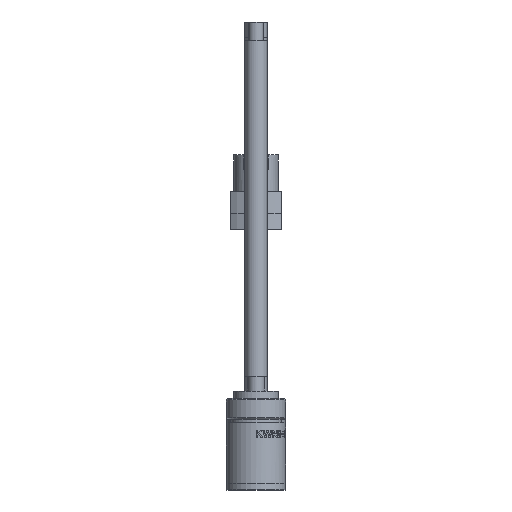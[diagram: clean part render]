
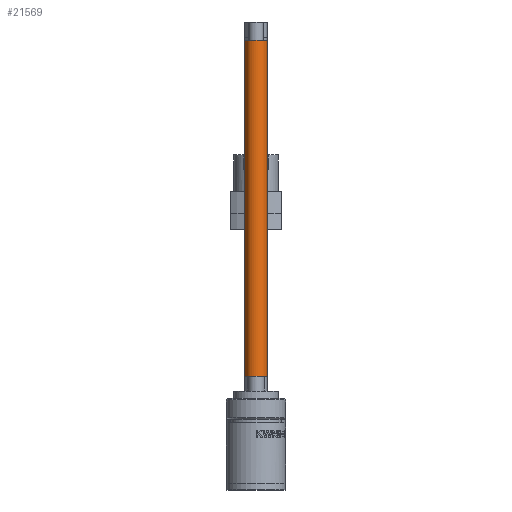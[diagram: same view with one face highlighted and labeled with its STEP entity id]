
A CAD part, left-side view. The second image highlights one B-rep face of the part: STEP entity #21569.
In plain terms, the highlighted cylindrical face has radius 1.5 mm (diameter 3 mm), a full revolution.
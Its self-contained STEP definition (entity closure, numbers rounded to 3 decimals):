
#21569=ADVANCED_FACE('',(#23492,#23493),#22217,.T.);
#22217=CYLINDRICAL_SURFACE('',#52758,1.5);
#23492=FACE_BOUND('',#26482,.T.);
#23493=FACE_BOUND('',#26483,.T.);
#26482=EDGE_LOOP('',(#36645));
#26483=EDGE_LOOP('',(#36646));
#36645=ORIENTED_EDGE('',*,*,#46365,.F.);
#36646=ORIENTED_EDGE('',*,*,#46364,.T.);
#41081=VERTEX_POINT('',#105116);
#41082=VERTEX_POINT('',#105119);
#46364=EDGE_CURVE('',#41081,#41081,#48049,.T.);
#46365=EDGE_CURVE('',#41082,#41082,#48050,.T.);
#48049=CIRCLE('',#52755,1.5);
#48050=CIRCLE('',#52757,1.5);
#52755=AXIS2_PLACEMENT_3D('',#105115,#59908,#59909);
#52757=AXIS2_PLACEMENT_3D('',#105118,#59912,#59913);
#52758=AXIS2_PLACEMENT_3D('',#105120,#59914,#59915);
#59908=DIRECTION('',(0.,0.,-1.));
#59909=DIRECTION('',(-1.,0.,0.));
#59912=DIRECTION('',(0.,0.,-1.));
#59913=DIRECTION('',(-1.,0.,0.));
#59914=DIRECTION('',(0.,0.,-1.));
#59915=DIRECTION('',(-1.,0.,0.));
#105115=CARTESIAN_POINT('',(-108.,0.,60.9));
#105116=CARTESIAN_POINT('',(-109.5,0.,60.9));
#105118=CARTESIAN_POINT('',(-108.,0.,15.4));
#105119=CARTESIAN_POINT('',(-109.5,0.,15.4));
#105120=CARTESIAN_POINT('',(-108.,0.,12.4));
